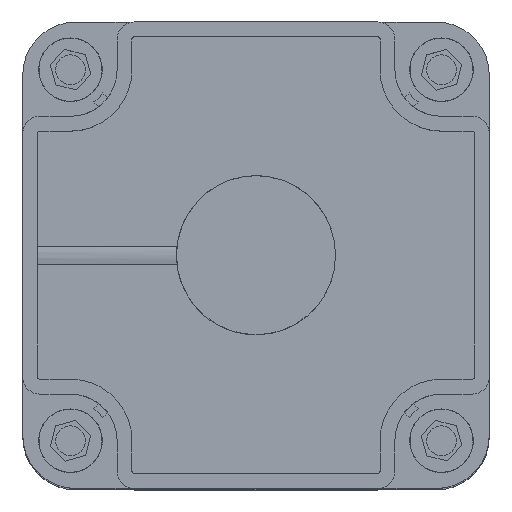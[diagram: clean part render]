
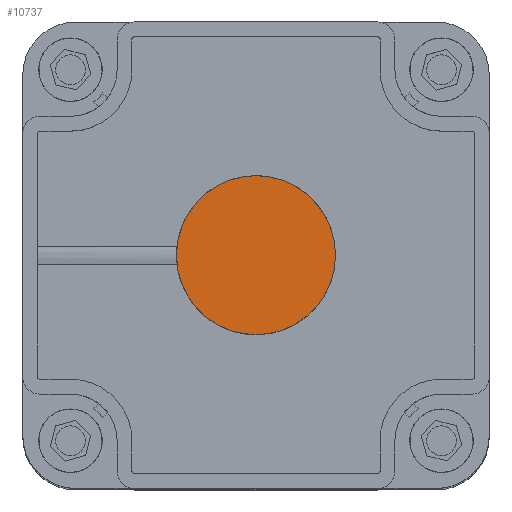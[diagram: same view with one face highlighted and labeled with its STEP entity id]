
A CAD part, top view. The second image highlights one B-rep face of the part: STEP entity #10737.
In plain terms, the highlighted planar face has unit normal (0, 0, 1).
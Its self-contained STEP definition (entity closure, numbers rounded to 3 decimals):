
#1472 = FACE_OUTER_BOUND ( 'NONE', #27366, .T. ) ;
#1721 = CARTESIAN_POINT ( 'NONE',  ( 58.13, -29.122, 18.209 ) ) ;
#2036 = CARTESIAN_POINT ( 'NONE',  ( 168.13, -139.122, 18.209 ) ) ;
#2179 = ORIENTED_EDGE ( 'NONE', *, *, #14224, .F. ) ;
#5531 = AXIS2_PLACEMENT_3D ( 'NONE', #1721, #14938, #8221 ) ;
#6476 = VERTEX_POINT ( 'NONE', #8114 ) ;
#8114 = CARTESIAN_POINT ( 'NONE',  ( 20.63, -29.122, 18.209 ) ) ;
#8221 = DIRECTION ( 'NONE',  ( -1., 0., 0. ) ) ;
#9645 = VERTEX_POINT ( 'NONE', #9763 ) ;
#9763 = CARTESIAN_POINT ( 'NONE',  ( 95.63, -29.122, 18.209 ) ) ;
#10737 = ADVANCED_FACE ( 'NONE', ( #1472 ), #14983, .T. ) ;
#11133 = ORIENTED_EDGE ( 'NONE', *, *, #21633, .F. ) ;
#12966 = DIRECTION ( 'NONE',  ( 1., 0., 0. ) ) ;
#14224 = EDGE_CURVE ( 'NONE', #9645, #6476, #26770, .T. ) ;
#14938 = DIRECTION ( 'NONE',  ( 0., 0., -1. ) ) ;
#14983 = PLANE ( 'NONE',  #24575 ) ;
#15997 = CARTESIAN_POINT ( 'NONE',  ( 58.13, -29.122, 18.209 ) ) ;
#16945 = DIRECTION ( 'NONE',  ( 0., 0., 1. ) ) ;
#17766 = DIRECTION ( 'NONE',  ( 0., 0., -1. ) ) ;
#21628 = CIRCLE ( 'NONE', #27006, 37.5 ) ;
#21633 = EDGE_CURVE ( 'NONE', #6476, #9645, #21628, .T. ) ;
#22173 = DIRECTION ( 'NONE',  ( -1., 0., 0. ) ) ;
#24575 = AXIS2_PLACEMENT_3D ( 'NONE', #2036, #16945, #12966 ) ;
#26770 = CIRCLE ( 'NONE', #5531, 37.5 ) ;
#27006 = AXIS2_PLACEMENT_3D ( 'NONE', #15997, #17766, #22173 ) ;
#27366 = EDGE_LOOP ( 'NONE', ( #11133, #2179 ) ) ;
